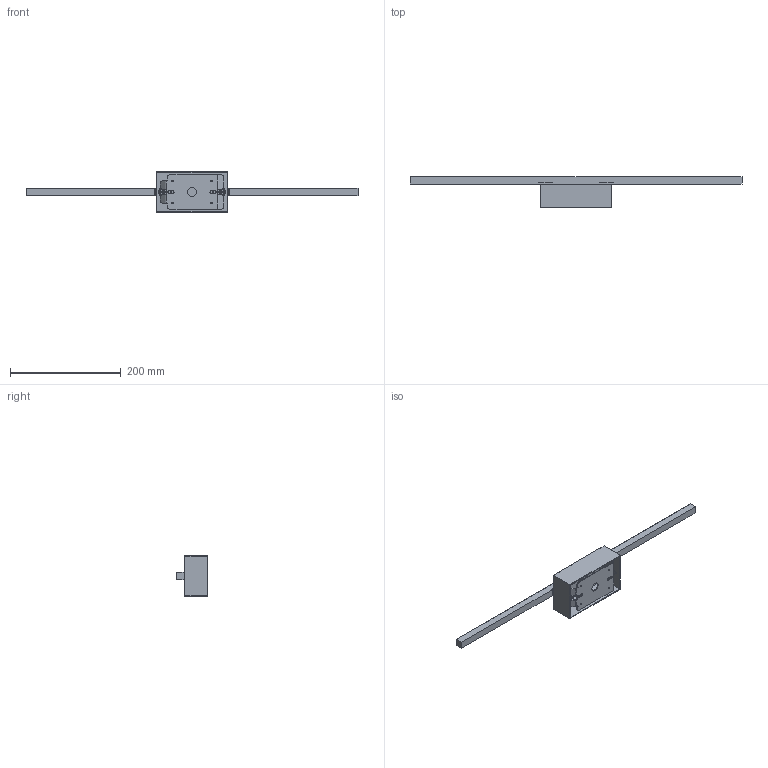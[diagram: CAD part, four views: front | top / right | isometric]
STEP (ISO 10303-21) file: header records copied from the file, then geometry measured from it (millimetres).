
FILE_DESCRIPTION (( 'STEP AP203' ), '1' );
FILE_NAME ('WS18224-CH.STEP', '2020-09-21T21:33:25', ( '' ), ( '' ), 'SwSTEP 2.0', 'SolidWorks 2018', '' );
FILE_SCHEMA (( 'CONFIG_CONTROL_DESIGN' ));
Length unit declared in the file: millimetre
Products named in the file (9): CANOPY; COAXIAL MALE; M8 x 1 NUT; SINGLE BACK PLATE; CANOPY_single; LIGHT_DIRECT 24; COAXIAL FEMAL; VEGA MINOR WALL MOUNT LIGHT_DIRECT 24; WS18224-CH
Assembly tree (11 placements, depth 3):
  WS18224-CH
    CANOPY_single
      CANOPY
      COAXIAL MALE  x2
      M8 x 1 NUT  x2
      SINGLE BACK PLATE
    VEGA MINOR WALL MOUNT LIGHT_DIRECT 24
      LIGHT_DIRECT 24
      COAXIAL FEMAL  x2
Bounding box: 600 x 55.3 x 75 mm (x, y, z)
Volume: 157883 mm3; surface area: 121763.3 mm2
Topology: 16 solids, 16 shells, 566 faces, 1420 edges, 906 vertices
Faces by surface type: plane 220, cylinder 212, bspline 72, cone 34, torus 24, sphere 4
Entity records: 22822 total; most frequent: CARTESIAN_POINT 13661, ORIENTED_EDGE 1740, DIRECTION 1651, EDGE_CURVE 870, AXIS2_PLACEMENT_3D 610, VERTEX_POINT 555, LINE 431, VECTOR 431
